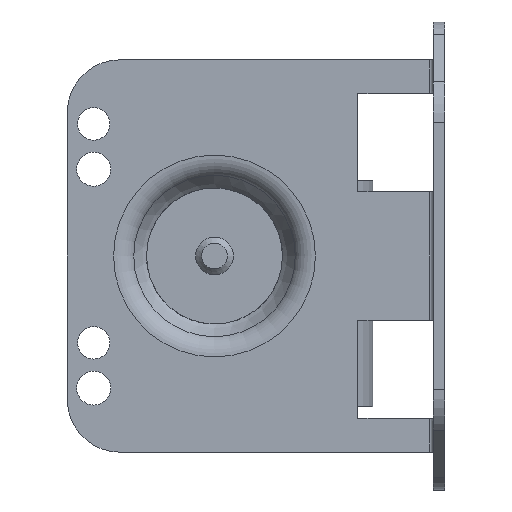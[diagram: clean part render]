
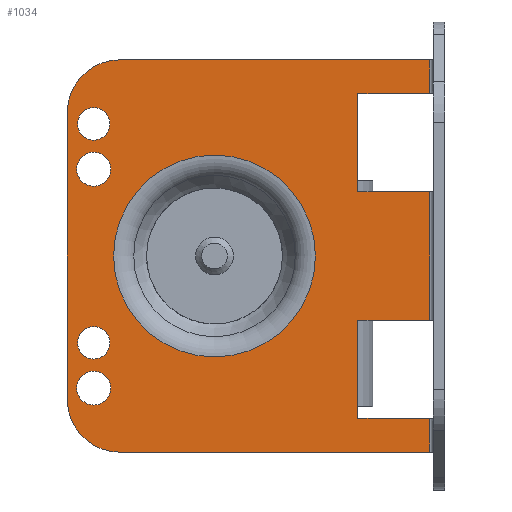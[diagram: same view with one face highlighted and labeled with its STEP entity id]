
A CAD part, front view. The second image highlights one B-rep face of the part: STEP entity #1034.
In plain terms, the highlighted planar face has unit normal (0, -1, 0).
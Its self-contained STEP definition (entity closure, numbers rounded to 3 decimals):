
#476=FACE_BOUND('',#2258,.T.);
#477=FACE_BOUND('',#2259,.T.);
#478=FACE_BOUND('',#2260,.T.);
#479=FACE_BOUND('',#2261,.T.);
#480=FACE_BOUND('',#2262,.T.);
#481=FACE_BOUND('',#2263,.T.);
#643=CIRCLE('',#9087,2.15);
#644=CIRCLE('',#9088,2.15);
#645=CIRCLE('',#9089,13.37);
#646=CIRCLE('',#9090,2.25);
#647=CIRCLE('',#9091,2.25);
#648=CIRCLE('',#9092,7.);
#649=CIRCLE('',#9093,7.);
#1034=ADVANCED_FACE('',(#476,#477,#478,#479,#480,#481),#1505,.T.);
#1505=PLANE('',#9094);
#2258=EDGE_LOOP('',(#2910));
#2259=EDGE_LOOP('',(#2911));
#2260=EDGE_LOOP('',(#2912));
#2261=EDGE_LOOP('',(#2913));
#2262=EDGE_LOOP('',(#2914));
#2263=EDGE_LOOP('',(#2915,#2916,#2917,#2918,#2919,#2920,#2921,#2922,#2923,
#2924,#2925,#2926,#2927,#2928));
#2910=ORIENTED_EDGE('',*,*,#6453,.F.);
#2911=ORIENTED_EDGE('',*,*,#6454,.F.);
#2912=ORIENTED_EDGE('',*,*,#6455,.T.);
#2913=ORIENTED_EDGE('',*,*,#6456,.F.);
#2914=ORIENTED_EDGE('',*,*,#6457,.F.);
#2915=ORIENTED_EDGE('',*,*,#6458,.F.);
#2916=ORIENTED_EDGE('',*,*,#6459,.T.);
#2917=ORIENTED_EDGE('',*,*,#6434,.F.);
#2918=ORIENTED_EDGE('',*,*,#6460,.T.);
#2919=ORIENTED_EDGE('',*,*,#6461,.T.);
#2920=ORIENTED_EDGE('',*,*,#6462,.T.);
#2921=ORIENTED_EDGE('',*,*,#6463,.F.);
#2922=ORIENTED_EDGE('',*,*,#6464,.T.);
#2923=ORIENTED_EDGE('',*,*,#6465,.T.);
#2924=ORIENTED_EDGE('',*,*,#6466,.F.);
#2925=ORIENTED_EDGE('',*,*,#6467,.T.);
#2926=ORIENTED_EDGE('',*,*,#6468,.T.);
#2927=ORIENTED_EDGE('',*,*,#6469,.T.);
#2928=ORIENTED_EDGE('',*,*,#6470,.F.);
#5523=VERTEX_POINT('',#12963);
#5528=VERTEX_POINT('',#12972);
#5546=VERTEX_POINT('',#13012);
#5547=VERTEX_POINT('',#13014);
#5548=VERTEX_POINT('',#13016);
#5549=VERTEX_POINT('',#13018);
#5550=VERTEX_POINT('',#13020);
#5551=VERTEX_POINT('',#13022);
#5552=VERTEX_POINT('',#13023);
#5553=VERTEX_POINT('',#13026);
#5554=VERTEX_POINT('',#13028);
#5555=VERTEX_POINT('',#13030);
#5556=VERTEX_POINT('',#13032);
#5557=VERTEX_POINT('',#13034);
#5558=VERTEX_POINT('',#13036);
#5559=VERTEX_POINT('',#13038);
#5560=VERTEX_POINT('',#13040);
#5561=VERTEX_POINT('',#13042);
#5562=VERTEX_POINT('',#13044);
#6434=EDGE_CURVE('',#5528,#5523,#7715,.T.);
#6453=EDGE_CURVE('',#5546,#5546,#643,.T.);
#6454=EDGE_CURVE('',#5547,#5547,#644,.T.);
#6455=EDGE_CURVE('',#5548,#5548,#645,.T.);
#6456=EDGE_CURVE('',#5549,#5549,#646,.T.);
#6457=EDGE_CURVE('',#5550,#5550,#647,.T.);
#6458=EDGE_CURVE('',#5551,#5552,#7727,.T.);
#6459=EDGE_CURVE('',#5551,#5523,#7728,.T.);
#6460=EDGE_CURVE('',#5528,#5553,#648,.T.);
#6461=EDGE_CURVE('',#5553,#5554,#7729,.T.);
#6462=EDGE_CURVE('',#5554,#5555,#649,.T.);
#6463=EDGE_CURVE('',#5556,#5555,#7730,.T.);
#6464=EDGE_CURVE('',#5556,#5557,#7731,.T.);
#6465=EDGE_CURVE('',#5557,#5558,#7732,.T.);
#6466=EDGE_CURVE('',#5559,#5558,#7733,.T.);
#6467=EDGE_CURVE('',#5559,#5560,#7734,.T.);
#6468=EDGE_CURVE('',#5560,#5561,#7735,.T.);
#6469=EDGE_CURVE('',#5561,#5562,#7736,.T.);
#6470=EDGE_CURVE('',#5552,#5562,#7737,.T.);
#7715=LINE('',#12973,#8406);
#7727=LINE('',#13021,#8418);
#7728=LINE('',#13024,#8419);
#7729=LINE('',#13027,#8420);
#7730=LINE('',#13031,#8421);
#7731=LINE('',#13033,#8422);
#7732=LINE('',#13035,#8423);
#7733=LINE('',#13037,#8424);
#7734=LINE('',#13039,#8425);
#7735=LINE('',#13041,#8426);
#7736=LINE('',#13043,#8427);
#7737=LINE('',#13045,#8428);
#8406=VECTOR('',#10198,1.);
#8418=VECTOR('',#10238,1.);
#8419=VECTOR('',#10239,1.);
#8420=VECTOR('',#10242,1.);
#8421=VECTOR('',#10245,1.);
#8422=VECTOR('',#10246,1.);
#8423=VECTOR('',#10247,1.);
#8424=VECTOR('',#10248,1.);
#8425=VECTOR('',#10249,1.);
#8426=VECTOR('',#10250,1.);
#8427=VECTOR('',#10251,1.);
#8428=VECTOR('',#10252,1.);
#9087=AXIS2_PLACEMENT_3D('',#13011,#10228,#10229);
#9088=AXIS2_PLACEMENT_3D('',#13013,#10230,#10231);
#9089=AXIS2_PLACEMENT_3D('',#13015,#10232,#10233);
#9090=AXIS2_PLACEMENT_3D('',#13017,#10234,#10235);
#9091=AXIS2_PLACEMENT_3D('',#13019,#10236,#10237);
#9092=AXIS2_PLACEMENT_3D('',#13025,#10240,#10241);
#9093=AXIS2_PLACEMENT_3D('',#13029,#10243,#10244);
#9094=AXIS2_PLACEMENT_3D('',#13046,#10253,#10254);
#10198=DIRECTION('',(1.,0.,0.));
#10228=DIRECTION('',(0.,-1.,0.));
#10229=DIRECTION('',(1.,0.,0.));
#10230=DIRECTION('',(0.,-1.,0.));
#10231=DIRECTION('',(1.,0.,0.));
#10232=DIRECTION('',(0.,1.,0.));
#10233=DIRECTION('',(1.,0.,0.));
#10234=DIRECTION('',(0.,-1.,0.));
#10235=DIRECTION('',(1.,0.,0.));
#10236=DIRECTION('',(0.,-1.,0.));
#10237=DIRECTION('',(1.,0.,0.));
#10238=DIRECTION('',(-1.,0.,0.));
#10239=DIRECTION('',(0.,0.,1.));
#10240=DIRECTION('',(0.,-1.,0.));
#10241=DIRECTION('',(1.,0.,0.));
#10242=DIRECTION('',(0.,0.,-1.));
#10243=DIRECTION('',(0.,-1.,0.));
#10244=DIRECTION('',(1.,0.,0.));
#10245=DIRECTION('',(-1.,0.,0.));
#10246=DIRECTION('',(0.,0.,1.));
#10247=DIRECTION('',(-1.,0.,0.));
#10248=DIRECTION('',(0.,0.,-1.));
#10249=DIRECTION('',(1.,0.,0.));
#10250=DIRECTION('',(0.,0.,1.));
#10251=DIRECTION('',(-1.,0.,0.));
#10252=DIRECTION('',(0.,0.,-1.));
#10253=DIRECTION('',(0.,-1.,0.));
#10254=DIRECTION('',(1.,0.,0.));
#12963=CARTESIAN_POINT('',(41.,-6.2,46.));
#12972=CARTESIAN_POINT('',(0.,-6.2,46.));
#12973=CARTESIAN_POINT('',(-7.,-6.2,46.));
#13011=CARTESIAN_POINT('',(-3.5,-6.2,37.5));
#13012=CARTESIAN_POINT('',(-1.35,-6.2,37.5));
#13013=CARTESIAN_POINT('',(-3.5,-6.2,8.5));
#13014=CARTESIAN_POINT('',(-1.35,-6.2,8.5));
#13015=CARTESIAN_POINT('',(12.5,-6.2,20.));
#13016=CARTESIAN_POINT('',(25.87,-6.2,20.));
#13017=CARTESIAN_POINT('',(-3.5,-6.2,2.5));
#13018=CARTESIAN_POINT('',(-1.25,-6.2,2.5));
#13019=CARTESIAN_POINT('',(-3.5,-6.2,31.5));
#13020=CARTESIAN_POINT('',(-1.25,-6.2,31.5));
#13021=CARTESIAN_POINT('',(43.,-6.2,41.5));
#13022=CARTESIAN_POINT('',(41.,-6.2,41.5));
#13023=CARTESIAN_POINT('',(31.5,-6.2,41.5));
#13024=CARTESIAN_POINT('',(41.,-6.2,46.));
#13025=CARTESIAN_POINT('',(0.,-6.2,39.));
#13026=CARTESIAN_POINT('',(-7.,-6.2,39.));
#13027=CARTESIAN_POINT('',(-7.,-6.2,41.));
#13028=CARTESIAN_POINT('',(-7.,-6.2,1.));
#13029=CARTESIAN_POINT('',(0.,-6.2,1.));
#13030=CARTESIAN_POINT('',(0.,-6.2,-6.));
#13031=CARTESIAN_POINT('',(41.5,-6.2,-6.));
#13032=CARTESIAN_POINT('',(41.,-6.2,-6.));
#13033=CARTESIAN_POINT('',(41.,-6.2,-1.5));
#13034=CARTESIAN_POINT('',(41.,-6.2,-1.5));
#13035=CARTESIAN_POINT('',(43.,-6.2,-1.5));
#13036=CARTESIAN_POINT('',(31.5,-6.2,-1.5));
#13037=CARTESIAN_POINT('',(31.5,-6.2,11.5));
#13038=CARTESIAN_POINT('',(31.5,-6.2,11.5));
#13039=CARTESIAN_POINT('',(31.5,-6.2,11.5));
#13040=CARTESIAN_POINT('',(41.,-6.2,11.5));
#13041=CARTESIAN_POINT('',(41.,-6.2,28.5));
#13042=CARTESIAN_POINT('',(41.,-6.2,28.5));
#13043=CARTESIAN_POINT('',(41.5,-6.2,28.5));
#13044=CARTESIAN_POINT('',(31.5,-6.2,28.5));
#13045=CARTESIAN_POINT('',(31.5,-6.2,414.8));
#13046=CARTESIAN_POINT('',(-7.,-6.2,4.));
